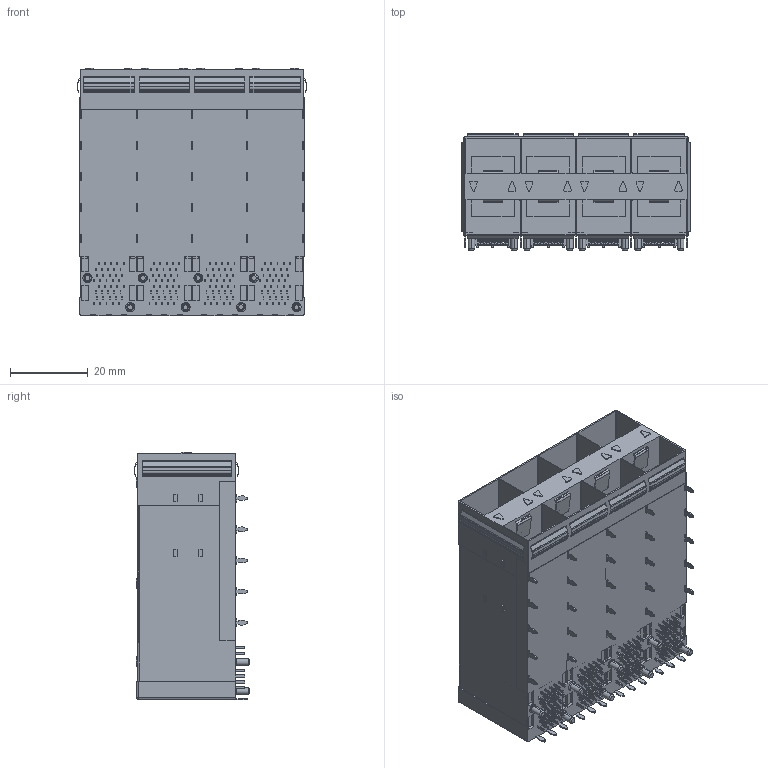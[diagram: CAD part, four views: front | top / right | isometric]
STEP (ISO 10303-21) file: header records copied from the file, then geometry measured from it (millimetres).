
FILE_DESCRIPTION (( 'STEP AP203' ), '1' );
FILE_NAME ('22403_SFP+ 2X4 俋絳嫖翐.STEP', '2024-06-05T00:34:21', ( '' ), ( '' ), 'SwSTEP 2.0', 'SolidWorks 2018', '' );
FILE_SCHEMA (( 'CONFIG_CONTROL_DESIGN' ));
Length unit declared in the file: millimetre
Products named in the file (1): 22403_SFP+ 2X4 俋絳嫖翐
Bounding box: 59.06 x 29.78 x 63.5 mm (x, y, z)
Volume: 46945.5 mm3; surface area: 34600.5 mm2
Topology: 1 solids, 1 shells, 2185 faces, 6063 edges, 4114 vertices
Faces by surface type: plane 1611, cylinder 540, cone 32, sphere 2
Entity records: 69872 total; most frequent: CARTESIAN_POINT 12361, ORIENTED_EDGE 12122, DIRECTION 11549, EDGE_CURVE 6061, LINE 4945, VECTOR 4945, VERTEX_POINT 4114, AXIS2_PLACEMENT_3D 3302
